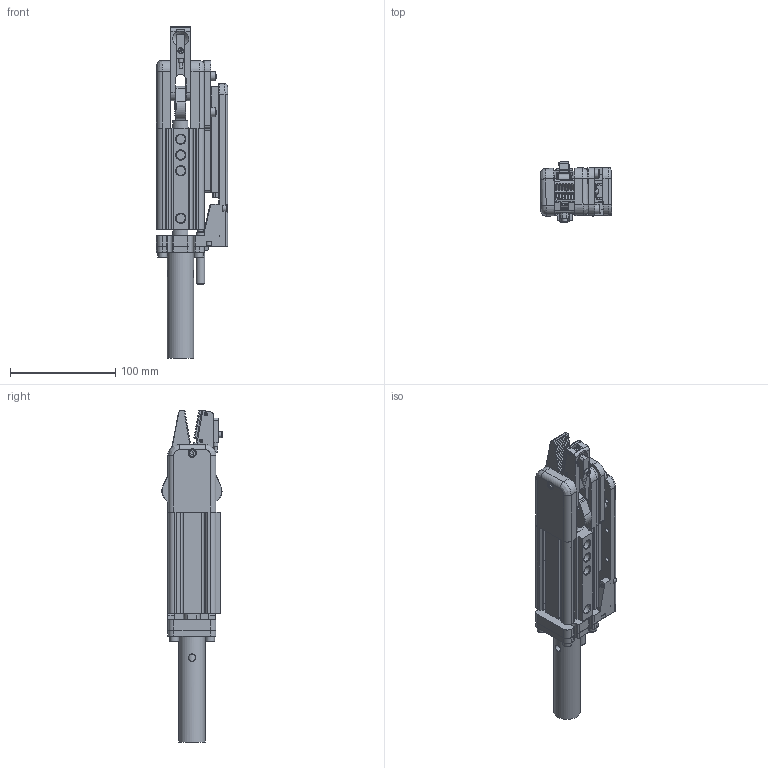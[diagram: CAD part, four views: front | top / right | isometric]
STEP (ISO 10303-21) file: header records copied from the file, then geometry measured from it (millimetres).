
FILE_DESCRIPTION(/* description */ (''),/* implementation_level */ '2;1');
FILE_NAME(/* name */ '8Y00399-GRP32B-30CP--25.stp',/* time_stamp */ '2023-02-22T13:23:57+08:00',/* author */ (''),/* organization */ (''),/* preprocessor_version */ 'ST-DEVELOPER v16',/* originating_system */ 'SIEMENS PLM Software NX 10.0',/* authorisation */ '');
FILE_SCHEMA (('AUTOMOTIVE_DESIGN { 1 0 10303 214 3 1 1 1 }'));
Products named in the file (1): _model37
Bounding box: 67.52 x 57.23 x 314.81 mm (x, y, z)
Volume: 391398.1 mm3; surface area: 157460.8 mm2
Topology: 16 solids, 39 shells, 2678 faces, 5712 edges, 3115 vertices
Faces by surface type: plane 2110, cylinder 351, cone 154, torus 33, bspline 15, revolution 14, sphere 1
Full cylindrical faces by diameter (mm): 2.4 x1, 2.5 x4, 3 x5, 3.1 x1, 3.3 x6, 3.4 x3, 4 x12, 4.1 x1, 4.2 x14, 4.5 x11, 5 x14, 5.2 x8, 5.5 x9, 6 x9, 6.5 x1, 6.647 x1, 7 x12, 8 x10, 8.1 x1, 8.5 x13, 8.566 x4, 9 x12, 10 x5, 13 x1, 13.5 x1, 14 x1, 15 x2, 16 x3, 17 x12, 20 x3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
Entity records: 91311 total; most frequent: CARTESIAN_POINT 18204, DIRECTION 11314, ORIENTED_EDGE 10264, EDGE_CURVE 5132, LINE 3894, VECTOR 3894, AXIS2_PLACEMENT_3D 3703, EDGE_LOOP 3203
